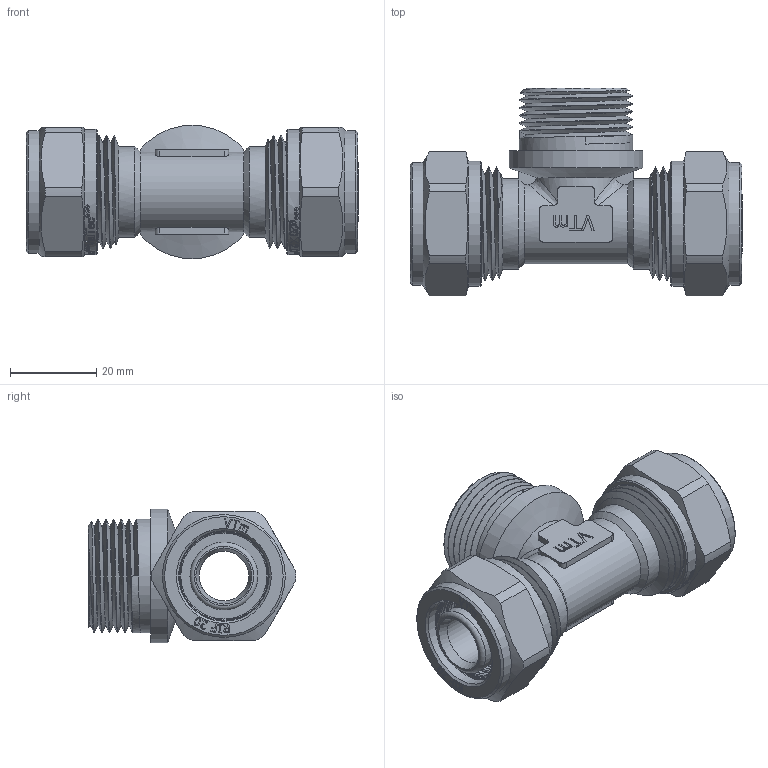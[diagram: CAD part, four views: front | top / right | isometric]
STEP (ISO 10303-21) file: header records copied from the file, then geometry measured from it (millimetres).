
FILE_DESCRIPTION(/* description */ (''),/* implementation_level */ '2;1');
FILE_NAME(/* name */ 'F:\Артём\00000\Работа удаленка\Обжимные фитинги\VTm.333.N.200520.stp',/* time_stamp */ '2020-07-30T10:05:21+03:00',/* author */ ('almis'),/* organization */ (''),/* preprocessor_version */ 'ST-DEVELOPER v18',/* originating_system */ 'Autodesk Inventor 2020',/* authorisation */ '');
FILE_SCHEMA (('AUTOMOTIVE_DESIGN { 1 0 10303 214 3 1 1 }'));
Length unit declared in the file: millimetre
Products named in the file (1): VTm.332.N.200520
Bounding box: 77 x 48.22 x 31 mm (x, y, z)
Volume: 30738.4 mm3; surface area: 24076.9 mm2
Topology: 2 solids, 3 shells, 1393 faces, 3914 edges, 2635 vertices
Faces by surface type: bspline 722, plane 405, cylinder 187, torus 44, cone 35
Full cylindrical faces by diameter (mm): 11.5 x1, 13.4 x4, 15 x1, 15.75 x8, 19.986 x8, 20 x1, 20.2 x2, 20.728 x10, 21 x4, 22.8 x12, 23.201 x2, 24.2 x4, 26.4 x9, 28.5 x2, 29 x2, 31 x1
Entity records: 61998 total; most frequent: CARTESIAN_POINT 30615, ORIENTED_EDGE 7834, DIRECTION 4279, EDGE_CURVE 3917, VERTEX_POINT 2638, LINE 1681, VECTOR 1681, B_SPLINE_CURVE_WITH_KNOTS 1574
